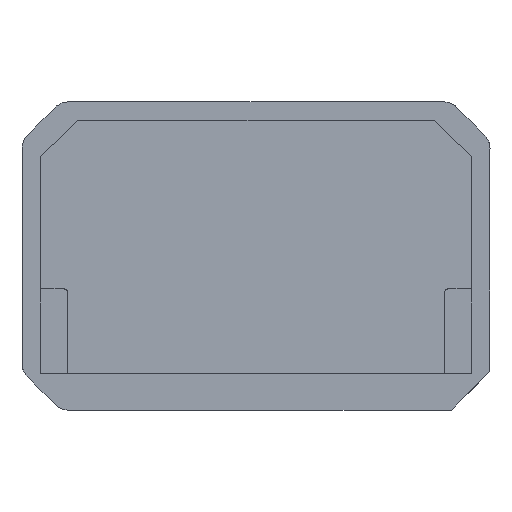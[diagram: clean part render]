
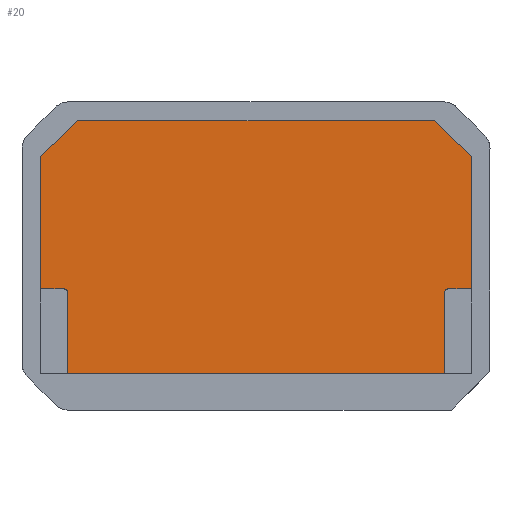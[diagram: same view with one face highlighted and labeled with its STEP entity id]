
A CAD part, front view. The second image highlights one B-rep face of the part: STEP entity #20.
In plain terms, the highlighted planar face has unit normal (0, -1, 0).
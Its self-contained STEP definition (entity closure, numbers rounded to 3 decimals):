
#20=ADVANCED_FACE('',(#109),#1351,.T.);
#109=FACE_OUTER_BOUND('',#198,.T.);
#198=EDGE_LOOP('',(#331,#332,#333,#334,#335,#336,#337));
#331=ORIENTED_EDGE('',*,*,#748,.F.);
#332=ORIENTED_EDGE('',*,*,#751,.F.);
#333=ORIENTED_EDGE('',*,*,#755,.F.);
#334=ORIENTED_EDGE('',*,*,#752,.F.);
#335=ORIENTED_EDGE('',*,*,#758,.F.);
#336=ORIENTED_EDGE('',*,*,#753,.F.);
#337=ORIENTED_EDGE('',*,*,#750,.F.);
#748=EDGE_CURVE('',#1183,#1182,#1088,.T.);
#750=EDGE_CURVE('',#1182,#1188,#1090,.T.);
#751=EDGE_CURVE('',#1184,#1183,#1091,.T.);
#752=EDGE_CURVE('',#1186,#1185,#1092,.T.);
#753=EDGE_CURVE('',#1188,#1187,#1093,.T.);
#755=EDGE_CURVE('',#1185,#1184,#1095,.T.);
#758=EDGE_CURVE('',#1187,#1186,#1098,.T.);
#1088=B_SPLINE_CURVE_WITH_KNOTS('',1,(#2347,#2348,#2349),.UNSPECIFIED.,
 .F.,.F.,(2,1,2),(10.,11.,12.),.UNSPECIFIED.);
#1090=B_SPLINE_CURVE_WITH_KNOTS('',1,(#2352,#2353,#2354),.UNSPECIFIED.,
 .F.,.F.,(2,1,2),(0.,1.,2.),.UNSPECIFIED.);
#1091=B_SPLINE_CURVE_WITH_KNOTS('',1,(#2355,#2356,#2357),.UNSPECIFIED.,
 .F.,.F.,(2,1,2),(8.,9.,10.),.UNSPECIFIED.);
#1092=B_SPLINE_CURVE_WITH_KNOTS('',1,(#2358,#2359,#2360),.UNSPECIFIED.,
 .F.,.F.,(2,1,2),(5.,6.,7.),.UNSPECIFIED.);
#1093=B_SPLINE_CURVE_WITH_KNOTS('',1,(#2361,#2362,#2363),.UNSPECIFIED.,
 .F.,.F.,(2,1,2),(2.,3.,4.),.UNSPECIFIED.);
#1095=B_SPLINE_CURVE_WITH_KNOTS('',1,(#2366,#2367),.UNSPECIFIED.,.F.,.F.,
(2,2),(7.,8.),.UNSPECIFIED.);
#1098=B_SPLINE_CURVE_WITH_KNOTS('',1,(#2372,#2373),.UNSPECIFIED.,.F.,.F.,
(2,2),(4.,5.),.UNSPECIFIED.);
#1182=VERTEX_POINT('',#2062);
#1183=VERTEX_POINT('',#2063);
#1184=VERTEX_POINT('',#2064);
#1185=VERTEX_POINT('',#2065);
#1186=VERTEX_POINT('',#2066);
#1187=VERTEX_POINT('',#2067);
#1188=VERTEX_POINT('',#2068);
#1351=PLANE('',#1386);
#1386=AXIS2_PLACEMENT_3D('',#1438,#1404,$);
#1404=DIRECTION('',(0.,-1.,0.));
#1438=CARTESIAN_POINT('',(35.82,-17.082,24.014));
#2062=CARTESIAN_POINT('',(58.824,-17.082,-3.04));
#2063=CARTESIAN_POINT('',(81.828,-17.082,-3.04));
#2064=CARTESIAN_POINT('',(81.828,-17.082,20.159));
#2065=CARTESIAN_POINT('',(77.867,-17.082,24.014));
#2066=CARTESIAN_POINT('',(39.781,-17.082,24.014));
#2067=CARTESIAN_POINT('',(35.82,-17.082,20.159));
#2068=CARTESIAN_POINT('',(35.82,-17.082,-3.04));
#2347=CARTESIAN_POINT('',(81.828,-17.082,-3.04));
#2348=CARTESIAN_POINT('',(77.867,-17.082,-3.04));
#2349=CARTESIAN_POINT('',(58.824,-17.082,-3.04));
#2352=CARTESIAN_POINT('',(58.824,-17.082,-3.04));
#2353=CARTESIAN_POINT('',(39.781,-17.082,-3.04));
#2354=CARTESIAN_POINT('',(35.82,-17.082,-3.04));
#2355=CARTESIAN_POINT('',(81.828,-17.082,20.159));
#2356=CARTESIAN_POINT('',(81.828,-17.082,9.547));
#2357=CARTESIAN_POINT('',(81.828,-17.082,-3.04));
#2358=CARTESIAN_POINT('',(39.781,-17.082,24.014));
#2359=CARTESIAN_POINT('',(58.824,-17.082,24.014));
#2360=CARTESIAN_POINT('',(77.867,-17.082,24.014));
#2361=CARTESIAN_POINT('',(35.82,-17.082,-3.04));
#2362=CARTESIAN_POINT('',(35.82,-17.082,9.547));
#2363=CARTESIAN_POINT('',(35.82,-17.082,20.159));
#2366=CARTESIAN_POINT('',(77.867,-17.082,24.014));
#2367=CARTESIAN_POINT('',(81.828,-17.082,20.159));
#2372=CARTESIAN_POINT('',(35.82,-17.082,20.159));
#2373=CARTESIAN_POINT('',(39.781,-17.082,24.014));
